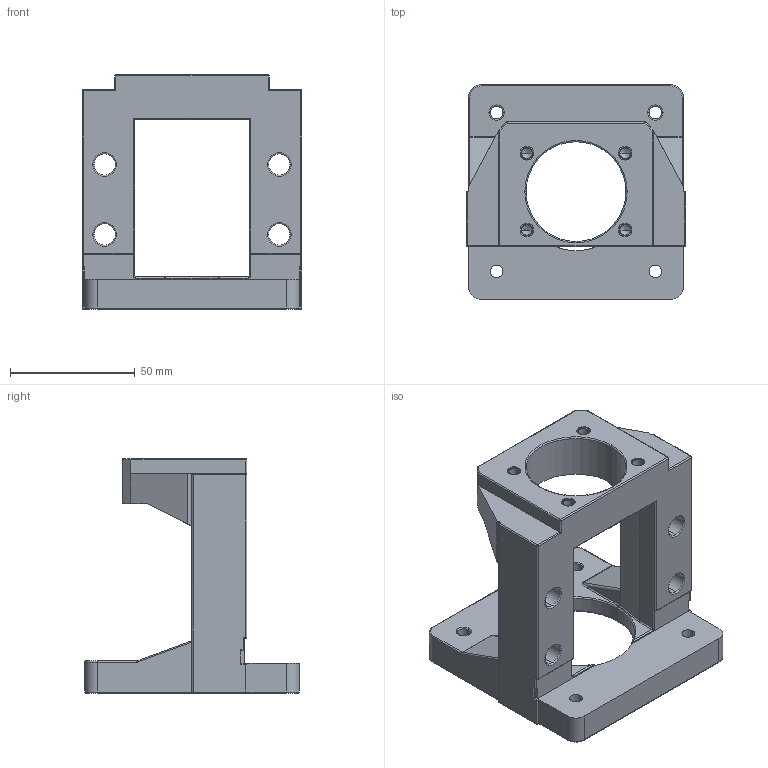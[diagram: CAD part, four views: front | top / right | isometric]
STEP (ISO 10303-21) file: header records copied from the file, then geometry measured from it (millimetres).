
FILE_DESCRIPTION (( 'STEP AP203' ), '1' );
FILE_NAME ('傳動座MBL15-E.STEP', '2020-06-30T06:15:22', ( '' ), ( '' ), 'SwSTEP 2.0', 'SolidWorks 2018', '' );
FILE_SCHEMA (( 'CONFIG_CONTROL_DESIGN' ));
Length unit declared in the file: millimetre
Products named in the file (1): 傳動座MBL15-E
Bounding box: 88 x 86 x 94 mm (x, y, z)
Volume: 157524.1 mm3; surface area: 41987.9 mm2
Topology: 1 solids, 1 shells, 252 faces, 606 edges, 342 vertices
Faces by surface type: cylinder 109, plane 54, torus 51, cone 24, sphere 12, bspline 2
Entity records: 7306 total; most frequent: CARTESIAN_POINT 1403, DIRECTION 1315, ORIENTED_EDGE 1172, EDGE_CURVE 586, AXIS2_PLACEMENT_3D 520, VERTEX_POINT 342, EDGE_LOOP 280, LINE 275
